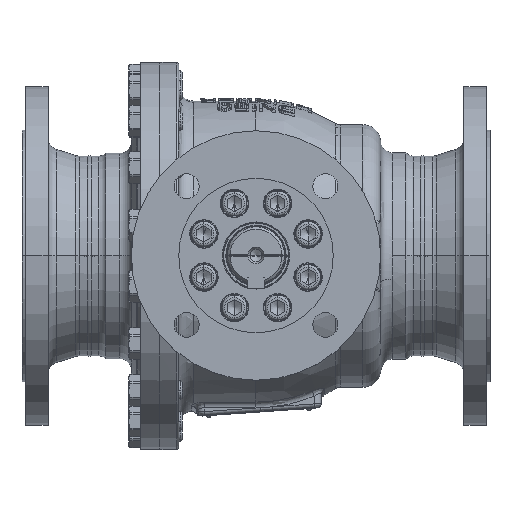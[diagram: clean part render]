
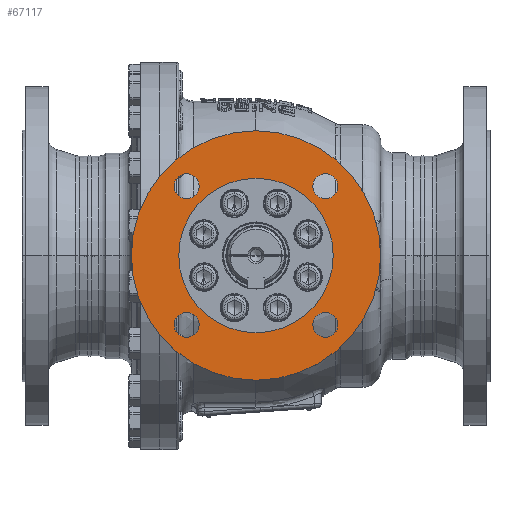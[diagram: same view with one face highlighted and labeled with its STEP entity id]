
A CAD part, top view. The second image highlights one B-rep face of the part: STEP entity #67117.
In plain terms, the highlighted planar face has unit normal (0, 0, 1).
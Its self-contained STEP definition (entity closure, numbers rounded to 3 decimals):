
#876=CARTESIAN_POINT('',(0.,0.,233.));
#877=DIRECTION('',(0.,0.,1.));
#878=DIRECTION('',(1.,0.,0.));
#879=AXIS2_PLACEMENT_3D('',#876,#877,#878);
#881=CARTESIAN_POINT('',(0.,0.,233.));
#882=DIRECTION('',(0.,0.,-1.));
#883=DIRECTION('',(1.,0.,0.));
#884=AXIS2_PLACEMENT_3D('',#881,#882,#883);
#886=CARTESIAN_POINT('',(58.336,-58.336,233.));
#887=DIRECTION('',(0.,0.,-1.));
#888=DIRECTION('',(-1.,0.,0.));
#889=AXIS2_PLACEMENT_3D('',#886,#887,#888);
#891=CARTESIAN_POINT('',(58.336,-58.336,233.));
#892=DIRECTION('',(0.,0.,-1.));
#893=DIRECTION('',(1.,0.,0.));
#894=AXIS2_PLACEMENT_3D('',#891,#892,#893);
#896=CARTESIAN_POINT('',(-58.336,-58.336,233.));
#897=DIRECTION('',(0.,0.,-1.));
#898=DIRECTION('',(0.,1.,0.));
#899=AXIS2_PLACEMENT_3D('',#896,#897,#898);
#901=CARTESIAN_POINT('',(-58.336,-58.336,233.));
#902=DIRECTION('',(0.,0.,-1.));
#903=DIRECTION('',(0.,-1.,0.));
#904=AXIS2_PLACEMENT_3D('',#901,#902,#903);
#906=CARTESIAN_POINT('',(-58.336,58.336,233.));
#907=DIRECTION('',(0.,0.,-1.));
#908=DIRECTION('',(1.,0.,0.));
#909=AXIS2_PLACEMENT_3D('',#906,#907,#908);
#911=CARTESIAN_POINT('',(-58.336,58.336,233.));
#912=DIRECTION('',(0.,0.,-1.));
#913=DIRECTION('',(-1.,0.,0.));
#914=AXIS2_PLACEMENT_3D('',#911,#912,#913);
#916=CARTESIAN_POINT('',(58.336,58.336,233.));
#917=DIRECTION('',(0.,0.,-1.));
#918=DIRECTION('',(0.,-1.,0.));
#919=AXIS2_PLACEMENT_3D('',#916,#917,#918);
#921=CARTESIAN_POINT('',(58.336,58.336,233.));
#922=DIRECTION('',(0.,0.,-1.));
#923=DIRECTION('',(0.,1.,0.));
#924=AXIS2_PLACEMENT_3D('',#921,#922,#923);
#930=CARTESIAN_POINT('',(0.,0.,233.));
#931=DIRECTION('',(0.,0.,-1.));
#932=DIRECTION('',(1.,0.,0.));
#933=AXIS2_PLACEMENT_3D('',#930,#931,#932);
#939=CARTESIAN_POINT('',(0.,0.,233.));
#940=DIRECTION('',(0.,0.,1.));
#941=DIRECTION('',(1.,0.,0.));
#942=AXIS2_PLACEMENT_3D('',#939,#940,#941);
#60342=CARTESIAN_POINT('',(65.,0.,233.));
#60344=VERTEX_POINT('',#60342);
#60346=CARTESIAN_POINT('',(-65.,0.,233.));
#60348=VERTEX_POINT('',#60346);
#60350=CARTESIAN_POINT('',(105.,0.,233.));
#60351=CARTESIAN_POINT('',(-105.,0.,233.));
#60352=VERTEX_POINT('',#60350);
#60353=VERTEX_POINT('',#60351);
#60406=CARTESIAN_POINT('',(47.836,-58.336,233.));
#60407=CARTESIAN_POINT('',(68.836,-58.336,233.));
#60408=VERTEX_POINT('',#60406);
#60409=VERTEX_POINT('',#60407);
#60410=CARTESIAN_POINT('',(-58.336,-47.836,233.));
#60411=CARTESIAN_POINT('',(-58.336,-68.836,233.));
#60412=VERTEX_POINT('',#60410);
#60413=VERTEX_POINT('',#60411);
#60414=CARTESIAN_POINT('',(-47.836,58.336,233.));
#60415=CARTESIAN_POINT('',(-68.836,58.336,233.));
#60416=VERTEX_POINT('',#60414);
#60417=VERTEX_POINT('',#60415);
#60418=CARTESIAN_POINT('',(58.336,47.836,233.));
#60419=CARTESIAN_POINT('',(58.336,68.836,233.));
#60420=VERTEX_POINT('',#60418);
#60421=VERTEX_POINT('',#60419);
#67078=CARTESIAN_POINT('',(0.,0.,233.));
#67079=DIRECTION('',(0.,0.,1.));
#67080=DIRECTION('',(1.,0.,0.));
#67081=AXIS2_PLACEMENT_3D('',#67078,#67079,#67080);
#67082=PLANE('',#67081);
#67083=ORIENTED_EDGE('',*,*,#67058,.F.);
#67084=ORIENTED_EDGE('',*,*,#67072,.T.);
#67085=EDGE_LOOP('',(#67083,#67084));
#67086=FACE_OUTER_BOUND('',#67085,.F.);
#67088=ORIENTED_EDGE('',*,*,#67087,.F.);
#67090=ORIENTED_EDGE('',*,*,#67089,.T.);
#67091=EDGE_LOOP('',(#67088,#67090));
#67092=FACE_BOUND('',#67091,.F.);
#67094=ORIENTED_EDGE('',*,*,#67093,.F.);
#67096=ORIENTED_EDGE('',*,*,#67095,.F.);
#67097=EDGE_LOOP('',(#67094,#67096));
#67098=FACE_BOUND('',#67097,.F.);
#67100=ORIENTED_EDGE('',*,*,#67099,.F.);
#67102=ORIENTED_EDGE('',*,*,#67101,.F.);
#67103=EDGE_LOOP('',(#67100,#67102));
#67104=FACE_BOUND('',#67103,.F.);
#67106=ORIENTED_EDGE('',*,*,#67105,.F.);
#67108=ORIENTED_EDGE('',*,*,#67107,.F.);
#67109=EDGE_LOOP('',(#67106,#67108));
#67110=FACE_BOUND('',#67109,.F.);
#67112=ORIENTED_EDGE('',*,*,#67111,.F.);
#67114=ORIENTED_EDGE('',*,*,#67113,.F.);
#67115=EDGE_LOOP('',(#67112,#67114));
#67116=FACE_BOUND('',#67115,.F.);
#67117=ADVANCED_FACE('',(#67086,#67092,#67098,#67104,#67110,#67116),#67082,.T.);
#880=CIRCLE('',#879,105.);
#885=CIRCLE('',#884,105.);
#890=CIRCLE('',#889,10.5);
#895=CIRCLE('',#894,10.5);
#900=CIRCLE('',#899,10.5);
#905=CIRCLE('',#904,10.5);
#910=CIRCLE('',#909,10.5);
#915=CIRCLE('',#914,10.5);
#920=CIRCLE('',#919,10.5);
#925=CIRCLE('',#924,10.5);
#934=CIRCLE('',#933,65.);
#943=CIRCLE('',#942,65.);
#67058=EDGE_CURVE('',#60352,#60353,#880,.T.);
#67072=EDGE_CURVE('',#60352,#60353,#885,.T.);
#67087=EDGE_CURVE('',#60344,#60348,#934,.T.);
#67089=EDGE_CURVE('',#60344,#60348,#943,.T.);
#67093=EDGE_CURVE('',#60408,#60409,#890,.T.);
#67095=EDGE_CURVE('',#60409,#60408,#895,.T.);
#67099=EDGE_CURVE('',#60412,#60413,#900,.T.);
#67101=EDGE_CURVE('',#60413,#60412,#905,.T.);
#67105=EDGE_CURVE('',#60416,#60417,#910,.T.);
#67107=EDGE_CURVE('',#60417,#60416,#915,.T.);
#67111=EDGE_CURVE('',#60420,#60421,#920,.T.);
#67113=EDGE_CURVE('',#60421,#60420,#925,.T.);
